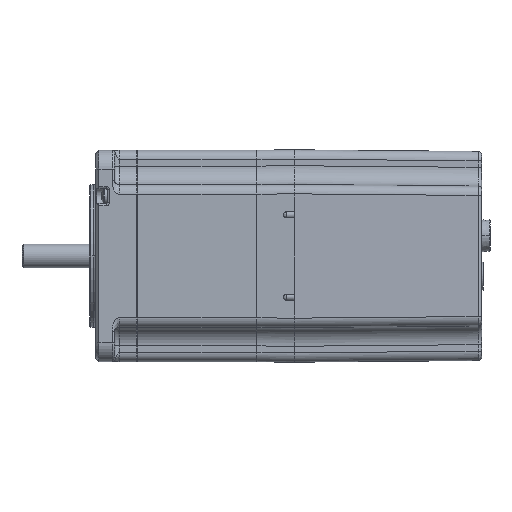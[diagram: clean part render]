
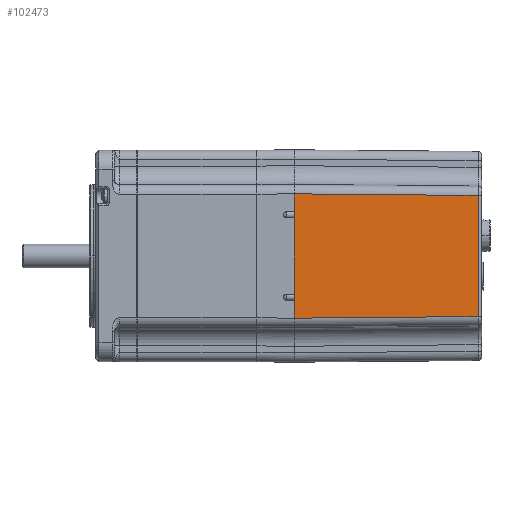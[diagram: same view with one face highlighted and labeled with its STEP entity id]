
A CAD part, front view. The second image highlights one B-rep face of the part: STEP entity #102473.
In plain terms, the highlighted planar face has unit normal (0.009, -1, 0) as drawn and (1, 0, -0.009) by its records, which use the part's own axes.
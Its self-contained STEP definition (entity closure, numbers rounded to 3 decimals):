
#46897=DIRECTION('',(0.,1.,0.));
#46898=VECTOR('',#46897,4.787);
#46899=CARTESIAN_POINT('',(28.337,-16.587,
-53.));
#46900=LINE('',#46899,#46898);
#46904=DIRECTION('',(0.,1.,0.));
#46905=VECTOR('',#46904,1.6);
#46906=CARTESIAN_POINT('',(28.337,-11.8,-53.));
#46907=LINE('',#46906,#46905);
#46911=DIRECTION('',(0.,1.,0.));
#46912=VECTOR('',#46911,20.4);
#46913=CARTESIAN_POINT('',(28.337,-10.2,-53.));
#46914=LINE('',#46913,#46912);
#46918=DIRECTION('',(0.,1.,0.));
#46919=VECTOR('',#46918,1.6);
#46920=CARTESIAN_POINT('',(28.337,10.2,-53.));
#46921=LINE('',#46920,#46919);
#46925=DIRECTION('',(0.,1.,0.));
#46926=VECTOR('',#46925,4.787);
#46927=CARTESIAN_POINT('',(28.337,11.8,-53.));
#46928=LINE('',#46927,#46926);
#46932=DIRECTION('',(-0.009,-0.009,-1.));
#46933=VECTOR('',#46932,49.012);
#46934=CARTESIAN_POINT('',(28.337,16.587,
-53.));
#46935=LINE('',#46934,#46933);
#46939=DIRECTION('',(0.009,-0.009,1.));
#46940=VECTOR('',#46939,49.012);
#46941=CARTESIAN_POINT('',(27.91,-16.16,
-102.009));
#46942=LINE('',#46941,#46940);
#47023=CARTESIAN_POINT('',(27.91,-16.16,
-102.009));
#47050=DIRECTION('',(0.,1.,0.));
#47051=VECTOR('',#47050,32.319);
#47052=CARTESIAN_POINT('',(27.91,-16.16,
-102.009));
#47053=LINE('',#47052,#47051);
#47084=CARTESIAN_POINT('',(27.91,16.16,
-102.009));
#51952=VERTEX_POINT('',#47084);
#51953=VERTEX_POINT('',#47023);
#55747=CARTESIAN_POINT('',(28.337,-16.587,
-53.));
#55748=CARTESIAN_POINT('',(28.337,-11.8,-53.));
#55749=VERTEX_POINT('',#55747);
#55750=VERTEX_POINT('',#55748);
#55751=CARTESIAN_POINT('',(28.337,-10.2,-53.));
#55752=CARTESIAN_POINT('',(28.337,10.2,-53.));
#55753=VERTEX_POINT('',#55751);
#55754=VERTEX_POINT('',#55752);
#55755=CARTESIAN_POINT('',(28.337,11.8,-53.));
#55756=CARTESIAN_POINT('',(28.337,16.587,
-53.));
#55757=VERTEX_POINT('',#55755);
#55758=VERTEX_POINT('',#55756);
#102452=CARTESIAN_POINT('',(28.123,0.,-77.504));
#102453=DIRECTION('',(1.,0.,-0.009));
#102454=DIRECTION('',(-0.009,0.,-1.));
#102455=AXIS2_PLACEMENT_3D('',#102452,#102453,#102454);
#102456=PLANE('',#102455);
#102458=ORIENTED_EDGE('',*,*,#102457,.T.);
#102459=ORIENTED_EDGE('',*,*,#102380,.T.);
#102461=ORIENTED_EDGE('',*,*,#102460,.T.);
#102462=ORIENTED_EDGE('',*,*,#102406,.T.);
#102464=ORIENTED_EDGE('',*,*,#102463,.T.);
#102466=ORIENTED_EDGE('',*,*,#102465,.T.);
#102468=ORIENTED_EDGE('',*,*,#102467,.F.);
#102470=ORIENTED_EDGE('',*,*,#102469,.T.);
#102471=EDGE_LOOP('',(#102458,#102459,#102461,#102462,#102464,#102466,#102468,
#102470));
#102472=FACE_OUTER_BOUND('',#102471,.F.);
#102380=EDGE_CURVE('',#55750,#55753,#46907,.T.);
#102406=EDGE_CURVE('',#55754,#55757,#46921,.T.);
#102457=EDGE_CURVE('',#55749,#55750,#46900,.T.);
#102460=EDGE_CURVE('',#55753,#55754,#46914,.T.);
#102463=EDGE_CURVE('',#55757,#55758,#46928,.T.);
#102465=EDGE_CURVE('',#55758,#51952,#46935,.T.);
#102467=EDGE_CURVE('',#51953,#51952,#47053,.T.);
#102469=EDGE_CURVE('',#51953,#55749,#46942,.T.);
#102473=ADVANCED_FACE('',(#102472),#102456,.T.);
